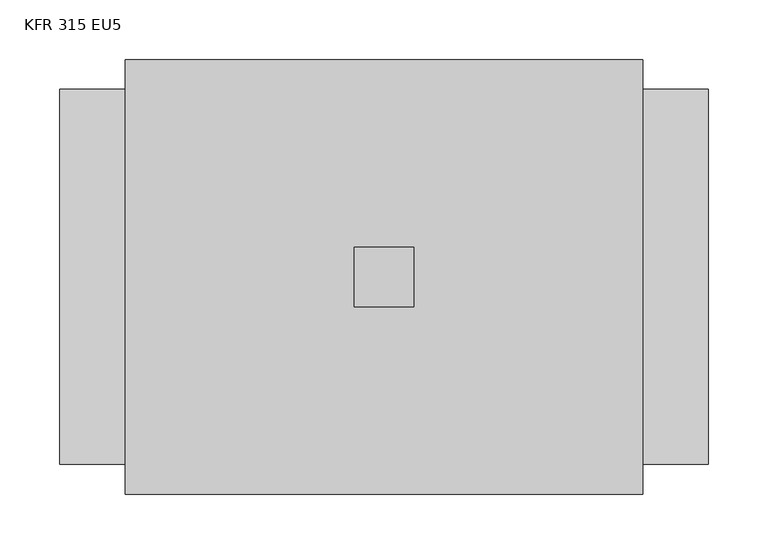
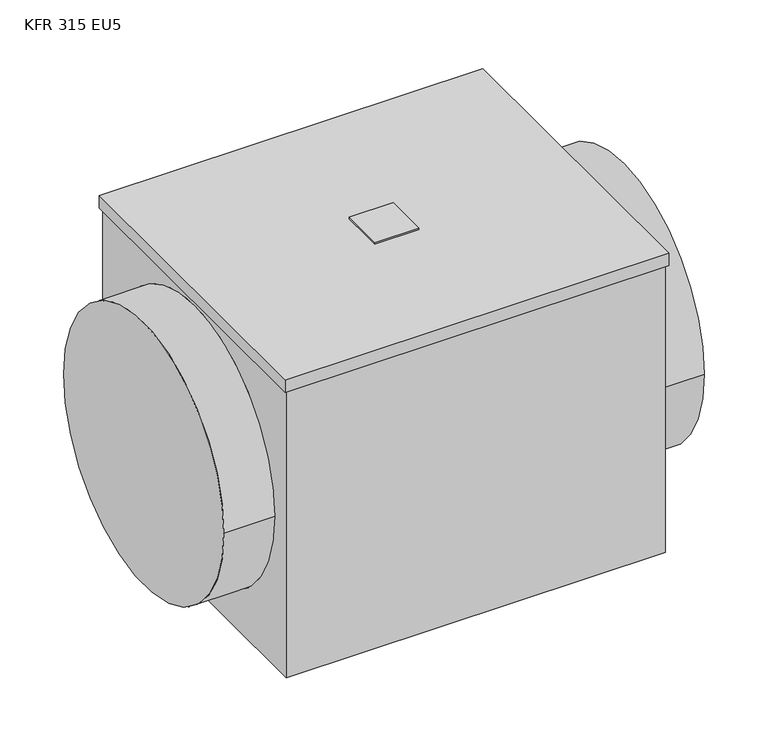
"""IFC4 building model written with IfcOpenShell, lengths in millimetres: damper geometry, KORF_Фильтр_Карманный_Круглый_KFR : KFR 315 EU5."""

from ifc_helpers import new_model, si_unit, frame, origin, place, context, project, spatial, polyline, circle_curve, outline, extrude, source, transform, mapped, element, save
from ifc_brep_helpers import plane_surface, cylinder_surface, advanced_brep


def kfr_315_eu5_83c5217d(model_context):
    return source(origin(), model_context, "Body", "SolidModel", [
        extrude(outline(polyline([(247.5, -25.0), (247.5, 25.0), (297.5, 25.0), (297.5, -25.0), (247.5, -25.0)])), frame((0.0, 0.0, 180.0), z_axis=(0.0, 0.0, 1.0), x_axis=(1.0, 0.0, 0.0)), (0.0, 0.0, 1.0), 2.0),
        advanced_brep(
        [(545.0, -157.5, 0.0), (545.0, 157.5, 0.0), (0.0, -157.5, 0.0), (0.0, 157.5, 0.0), (487.5, -157.5, 0.0), (487.5, 157.5, 0.0), (57.5, 157.5, 0.0), (57.5, -157.5, 0.0), (487.5, -180.0, -180.0), (487.5, 180.0, -180.0), (487.5, 180.0, 165.0), (487.5, -180.0, 165.0), (57.5, 180.0, -180.0), (57.5, -180.0, -180.0), (57.5, -180.0, 165.0), (57.5, 180.0, 165.0), (490.0, 182.5, 180.0), (55.0, 182.5, 180.0), (55.0, -182.5, 180.0), (490.0, -182.5, 180.0), (490.0, 182.5, 165.0), (490.0, -182.5, 165.0), (55.0, -182.5, 165.0), (55.0, 182.5, 165.0)],
        [
            (0, 1, circle_curve(frame((545.0, 0.0, 0.0), z_axis=(1.0, 0.0, 0.0), x_axis=(0.0, 1.0, 0.0)), 157.5)),
            (1, 0, circle_curve(frame((545.0, 0.0, 0.0), z_axis=(1.0, 0.0, 0.0), x_axis=(0.0, 1.0, 0.0)), 157.5)),
            (2, 3, circle_curve(frame((0.0, 0.0, 0.0), z_axis=(-1.0, 0.0, 0.0), x_axis=(0.0, 1.0, 0.0)), 157.5)),
            (3, 2, circle_curve(frame((0.0, 0.0, 0.0), z_axis=(-1.0, 0.0, 0.0), x_axis=(0.0, 1.0, 0.0)), 157.5)),
            (0, 4),
            (4, 5, circle_curve(frame((487.5, 0.0, 0.0), z_axis=(1.0, 0.0, 0.0), x_axis=(0.0, 1.0, 0.0)), 157.5)),
            (5, 1),
            (3, 6),
            (6, 7, circle_curve(frame((57.5, 0.0, 0.0), z_axis=(-1.0, 0.0, 0.0), x_axis=(0.0, 1.0, 0.0)), 157.5)),
            (7, 2),
            (5, 4, circle_curve(frame((487.5, 0.0, 0.0), z_axis=(1.0, 0.0, 0.0), x_axis=(0.0, 1.0, 0.0)), 157.5)),
            (7, 6, circle_curve(frame((57.5, 0.0, 0.0), z_axis=(-1.0, 0.0, 0.0), x_axis=(0.0, 1.0, 0.0)), 157.5)),
            (8, 9),
            (9, 10),
            (10, 11),
            (11, 8),
            (12, 13),
            (13, 14),
            (14, 15),
            (15, 12),
            (13, 8),
            (11, 14),
            (12, 9),
            (15, 10),
            (16, 17),
            (17, 18),
            (18, 19),
            (19, 16),
            (20, 21),
            (21, 22),
            (22, 23),
            (23, 20),
            (16, 20),
            (23, 17),
            (22, 18),
            (21, 19),
        ],
        [
            plane_surface(frame((545.0, 157.5, 0.0), z_axis=(1.0, 0.0, 0.0), x_axis=(0.0, 0.0, 1.0))),
            plane_surface(frame((0.0, 157.5, 0.0), z_axis=(-1.0, 0.0, 0.0), x_axis=(0.0, 0.0, -1.0))),
            cylinder_surface(frame((0.0, 0.0, 0.0), z_axis=(1.0, 0.0, 0.0), x_axis=(0.0, 1.0, 0.0)), 157.5),
            plane_surface(frame((487.5, -180.0, 180.0), z_axis=(1.0, 0.0, 0.0), x_axis=(0.0, 0.0, -1.0))),
            plane_surface(frame((57.5, -180.0, 180.0), z_axis=(-1.0, 0.0, 0.0), x_axis=(0.0, 0.0, 1.0))),
            plane_surface(frame((487.5, -180.0, 180.0), z_axis=(0.0, -1.0, 0.0), x_axis=(-1.0, 0.0, 0.0))),
            plane_surface(frame((487.5, -180.0, -180.0), z_axis=(0.0, 0.0, -1.0), x_axis=(-1.0, 0.0, 0.0))),
            plane_surface(frame((487.5, 180.0, -180.0), z_axis=(0.0, 1.0, 0.0), x_axis=(-1.0, 0.0, 0.0))),
            plane_surface(frame((487.5, 180.0, 180.0), z_axis=(0.0, 0.0, 1.0), x_axis=(-1.0, 0.0, 0.0))),
            plane_surface(frame((55.0, 182.5, 165.0), z_axis=(0.0, 0.0, -1.0), x_axis=(1.0, 0.0, 0.0))),
            plane_surface(frame((490.0, 182.5, 180.0), z_axis=(0.0, 1.0, 0.0), x_axis=(0.0, 0.0, -1.0))),
            plane_surface(frame((55.0, 182.5, 180.0), z_axis=(-1.0, 0.0, 0.0), x_axis=(0.0, 0.0, -1.0))),
            plane_surface(frame((55.0, -182.5, 180.0), z_axis=(0.0, -1.0, 0.0), x_axis=(0.0, 0.0, -1.0))),
            plane_surface(frame((490.0, -182.5, 180.0), z_axis=(1.0, 0.0, 0.0), x_axis=(0.0, 0.0, -1.0))),
        ],
        [
            (0, [[1, 2]]),
            (1, [[3, 4]]),
            (2, [[-1, 5, 6, 7]]),
            (2, [[-4, 8, 9, 10]]),
            (2, [[-2, -7, 11, -5]]),
            (2, [[-3, -10, 12, -8]]),
            (3, [[13, 14, 15, 16], [-6, -11]]),
            (4, [[17, 18, 19, 20], [-9, -12]]),
            (5, [[21, -16, 22, -18]]),
            (6, [[-13, -21, -17, 23]]),
            (7, [[-23, -20, 24, -14]]),
            (8, [[25, 26, 27, 28]]),
            (9, [[29, 30, 31, 32], [-15, -24, -19, -22]]),
            (10, [[-25, 33, -32, 34]]),
            (11, [[-26, -34, -31, 35]]),
            (12, [[-27, -35, -30, 36]]),
            (13, [[-28, -36, -29, -33]]),
        ],
    ),
    ])


if __name__ == "__main__":
    model = new_model("IFC4")
    model_context = context("Model", 3, world=origin())
    ifc_project = project(units=[si_unit("LENGTHUNIT", "METRE", prefix="MILLI")], contexts=[model_context])
    site = spatial("IfcSite", under=ifc_project)
    building = spatial("IfcBuilding", under=site)
    placement = place(None, origin())
    kfr_315_eu5_shape = kfr_315_eu5_83c5217d(model_context)
    element("IfcDamper", 1, ObjectType="KORF_Фильтр_Карманный_Круглый_KFR : KFR 315 EU5", at=placement, inside=building, context=model_context, shape_type="MappedRepresentation", body=[
        mapped(kfr_315_eu5_shape, transform((0.0, 0.0, 0.0), x_axis=(1.0, 0.0, 0.0), y_axis=(0.0, 1.0, 0.0), z_axis=(0.0, 0.0, 1.0))),
    ])
    save(model, "model.ifc")
